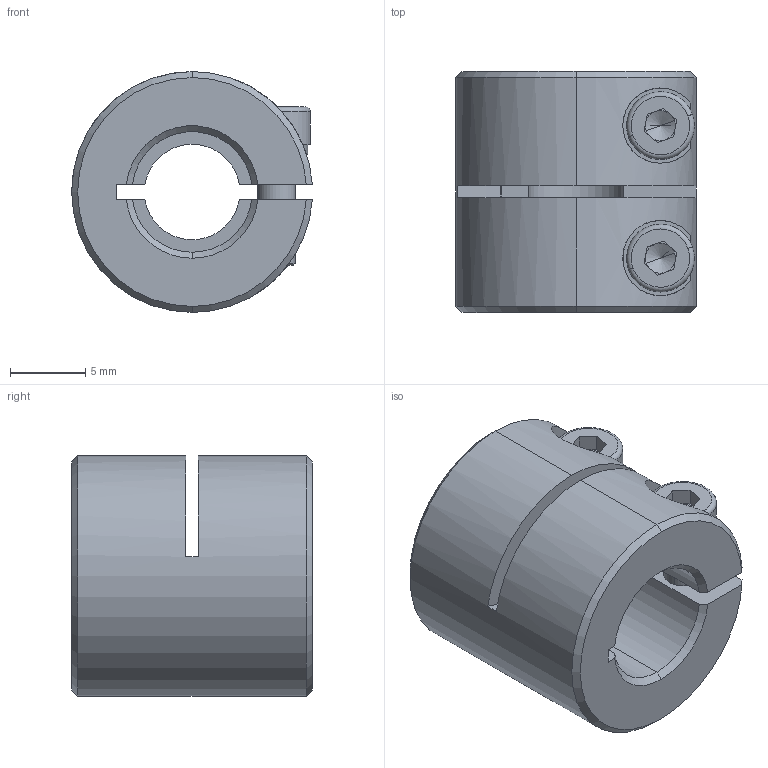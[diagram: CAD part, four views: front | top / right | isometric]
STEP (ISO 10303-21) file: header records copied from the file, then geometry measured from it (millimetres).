
FILE_DESCRIPTION (( 'STEP AP203' ), '1' );
FILE_NAME ('LL-B-D16L16-6.35-8.STEP', '2021-11-03T02:51:11', ( '' ), ( '' ), 'SwSTEP 2.0', 'SolidWorks 2018', '' );
FILE_SCHEMA (( 'CONFIG_CONTROL_DESIGN' ));
Length unit declared in the file: millimetre
Products named in the file (1): LL-B-D16L16-6.35-8
Bounding box: 15.98 x 16 x 16 mm (x, y, z)
Volume: 2381.6 mm3; surface area: 2012.4 mm2
Topology: 1 solids, 1 shells, 121 faces, 316 edges, 198 vertices
Faces by surface type: plane 52, cylinder 45, cone 20, torus 4
Entity records: 3977 total; most frequent: CARTESIAN_POINT 887, DIRECTION 656, ORIENTED_EDGE 624, EDGE_CURVE 312, AXIS2_PLACEMENT_3D 255, VERTEX_POINT 198, LINE 146, VECTOR 146
